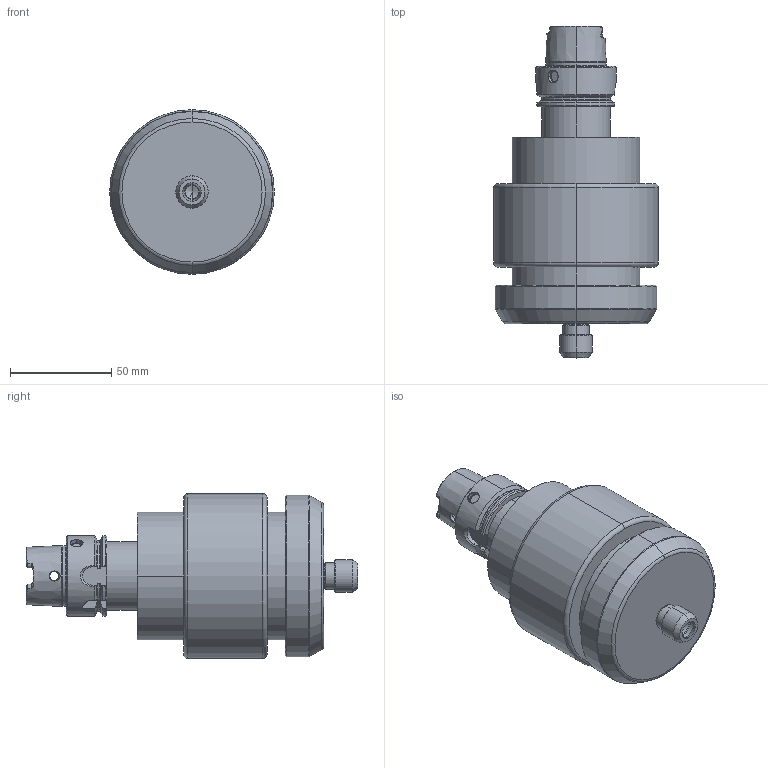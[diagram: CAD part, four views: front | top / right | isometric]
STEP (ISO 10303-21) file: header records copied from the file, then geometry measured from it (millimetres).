
FILE_DESCRIPTION (( 'STEP AP214' ), '1' );
FILE_NAME ('TJS-HPC4-HSK A40-Light.STEP', '2024-07-22T13:29:54', ( '' ), ( '' ), 'SwSTEP 2.0', 'SolidWorks 2024', '' );
FILE_SCHEMA (( 'AUTOMOTIVE_DESIGN' ));
Length unit declared in the file: millimetre
Products named in the file (1): TJS-HPC4-HSK A40-Light
Bounding box: 81.5 x 164.27 x 81.5 mm (x, y, z)
Volume: 443764.3 mm3; surface area: 46433.6 mm2
Topology: 1 solids, 1 shells, 237 faces, 616 edges, 390 vertices
Faces by surface type: cone 70, cylinder 67, plane 59, bspline 31, torus 10
Entity records: 8680 total; most frequent: CARTESIAN_POINT 3066, ORIENTED_EDGE 1224, DIRECTION 1146, EDGE_CURVE 612, AXIS2_PLACEMENT_3D 477, VERTEX_POINT 390, CIRCLE 270, EDGE_LOOP 254
